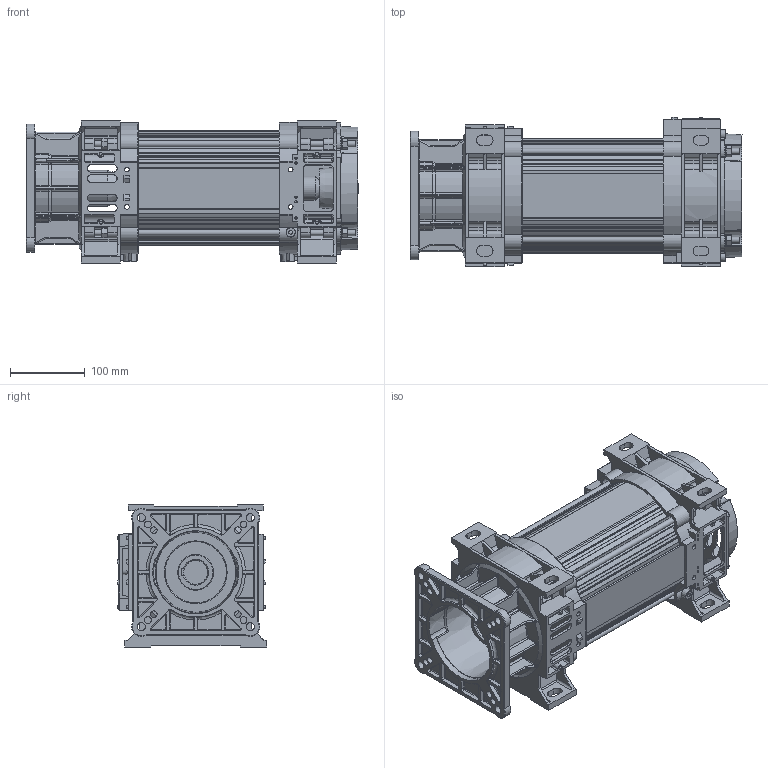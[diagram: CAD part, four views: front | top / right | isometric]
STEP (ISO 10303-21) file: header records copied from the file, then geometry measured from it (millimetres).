
FILE_DESCRIPTION(/* description */ ('Motore Tipo S4X Fl.111.1 F32-H210 NO Volano SI Piedi INT'),/* implementation_level */ '2;1');
FILE_NAME(/* name */ 'Y:\ServerTecnico\Mockup Motori x Sito Elmo\Mockup Tipo S4X Size 1 FL111 F32-H210 NO Volano.stp',/* time_stamp */ '2016-10-06T09:28:28+02:00',/* author */ ('aparmini'),/* organization */ (''),/* preprocessor_version */ 'ST-DEVELOPER v16.5',/* originating_system */ 'Autodesk Inventor 2017',/* authorisation */ '');
FILE_SCHEMA (('AUTOMOTIVE_DESIGN { 1 0 10303 214 3 1 1 }'));
Products named in the file (8): Mockup Tipo S4X Size 1 FL111 F32-H210 NO Volano NO Piedi; Mockup Statore Size 1 - F32-H210 NO Volano; TGS10; Mockup CA1SD111N; Mockup CP1XD040N; TI08ML350; UNI 5587 - M8; DIN 125-2 - B 8,4
Assembly tree (20 placements, depth 2):
  Mockup Tipo S4X Size 1 FL111 F32-H210 NO Volano NO Piedi
    Mockup Statore Size 1 - F32-H210 NO Volano
    TGS10
    Mockup CA1SD111N
    Mockup CP1XD040N
    UNI 5587 - M8  x8
    TI08ML350  x4
    DIN 125-2 - B 8,4  x4
Bounding box: 444 x 200 x 190 mm (x, y, z)
Volume: 5774056.9 mm3; surface area: 807467.2 mm2
Topology: 20 solids, 20 shells, 2588 faces, 7036 edges, 4479 vertices
Faces by surface type: plane 1009, cylinder 966, bspline 251, cone 246, torus 100, sphere 16
Full cylindrical faces by diameter (mm): 3.2 x5, 4 x8, 4.917 x2, 5 x4, 6.2 x8, 6.647 x8, 8 x4, 8.4 x4, 9 x8, 10 x8, 11 x4, 12 x4, 16 x4, 17 x1, 21 x1, 32 x2, 38 x1, 48 x1, 82 x1
Entity records: 82949 total; most frequent: CARTESIAN_POINT 21117, DIRECTION 13108, ORIENTED_EDGE 13014, EDGE_CURVE 6495, AXIS2_PLACEMENT_3D 4905, VERTEX_POINT 4230, LINE 3298, VECTOR 3298
